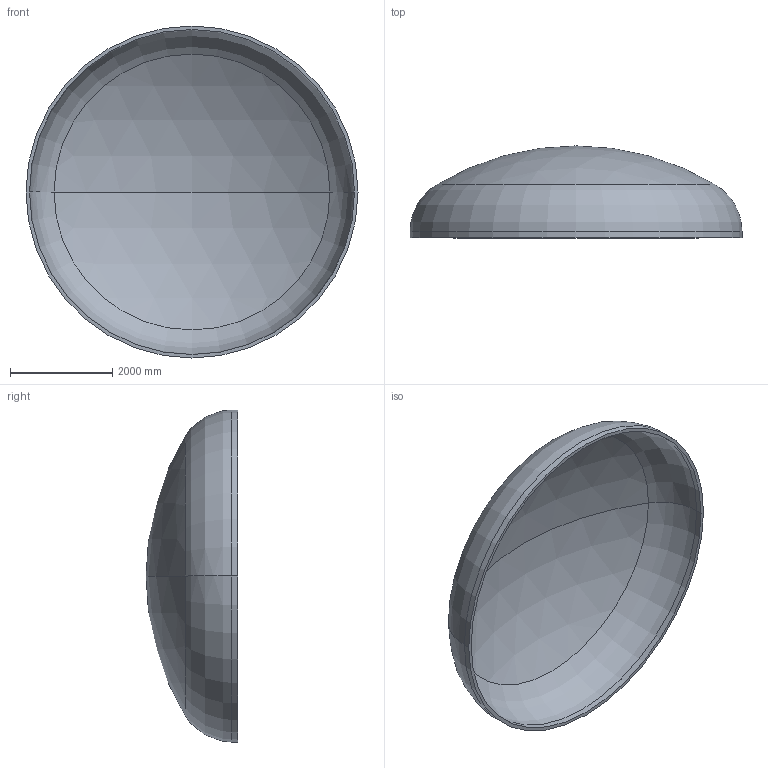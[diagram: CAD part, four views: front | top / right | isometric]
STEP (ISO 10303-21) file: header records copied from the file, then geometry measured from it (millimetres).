
FILE_DESCRIPTION (( 'STEP AP203' ), '1' );
FILE_NAME ('DIN 28013 Korbbogenform_-_Boden DIN 28013 - 6500 x 120 - I - s=68.step', '2016-07-04T10:42:58', ( '' ), ( '' ), 'SwSTEP 2.0', 'SolidWorks 2013', '' );
FILE_SCHEMA (( 'CONFIG_CONTROL_DESIGN' ));
Length unit declared in the file: millimetre
Products named in the file (1): DIN 28013 Korbbogenform_-_Boden DIN 28013 - 6500 x 120 - I - s=68
Bounding box: 6500 x 1799.28 x 6500 mm (x, y, z)
Volume: 3246493152 mm3; surface area: 96868797.9 mm2
Topology: 1 solids, 1 shells, 13 faces, 24 edges, 14 vertices
Faces by surface type: torus 4, cylinder 4, sphere 4, plane 1
Entity records: 407 total; most frequent: DIRECTION 72, CARTESIAN_POINT 52, ORIENTED_EDGE 48, AXIS2_PLACEMENT_3D 34, EDGE_CURVE 24, CIRCLE 20, VERTEX_POINT 14, EDGE_LOOP 14
